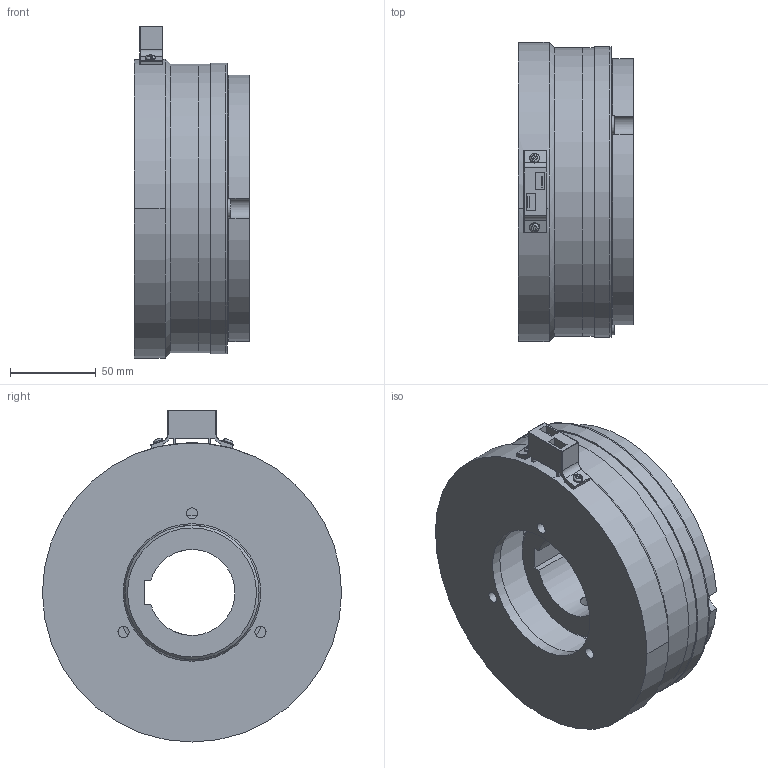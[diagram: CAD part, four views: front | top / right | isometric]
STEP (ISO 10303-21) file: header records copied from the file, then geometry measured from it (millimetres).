
FILE_DESCRIPTION(/* description */ (''),/* implementation_level */ '2;1');
FILE_NAME(/* name */ 'X:\INVENTOR\DISEGNI\08_Freni_Friz_Elettmag_Monodisco\08_28 EMFL_DF\EMFL_DF STEP\08_28_170_13 EMFL170_DF-C-MI_S@STEP.stp',/* time_stamp */ '2018-04-23T09:49:37+02:00',/* author */ ('stefano'),/* organization */ (''),/* preprocessor_version */ 'ST-DEVELOPER v17',/* originating_system */ 'Autodesk Inventor 2018',/* authorisation */ '');
FILE_SCHEMA (('AUTOMOTIVE_DESIGN { 1 0 10303 214 3 1 1 }'));
Length unit declared in the file: millimetre
Products named in the file (1): 08_28_170_13 EMFL170_DF-C-MI - Spina_Substitute_1
Bounding box: 67.2 x 174 x 193.14 mm (x, y, z)
Volume: 887753.6 mm3; surface area: 201559.8 mm2
Topology: 1 solids, 1 shells, 418 faces, 1185 edges, 755 vertices
Faces by surface type: cylinder 212, plane 129, torus 33, cone 24, sphere 20
Full cylindrical faces by diameter (mm): 5.6 x2, 6 x4, 6.5 x3, 8.376 x2, 10 x3, 11 x9, 12 x3, 78 x1, 80 x1, 104 x2, 105 x1, 122 x1, 129 x2, 149 x2, 155 x1, 168 x2, 169 x2
Entity records: 14757 total; most frequent: CARTESIAN_POINT 3020, DIRECTION 2597, ORIENTED_EDGE 2318, EDGE_CURVE 1159, AXIS2_PLACEMENT_3D 1096, VERTEX_POINT 755, CIRCLE 677, EDGE_LOOP 504
